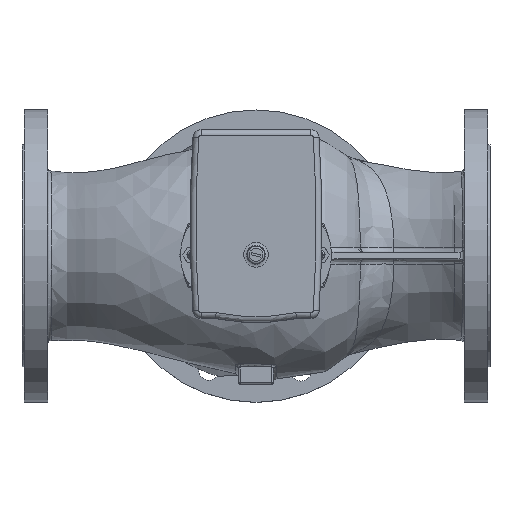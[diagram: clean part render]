
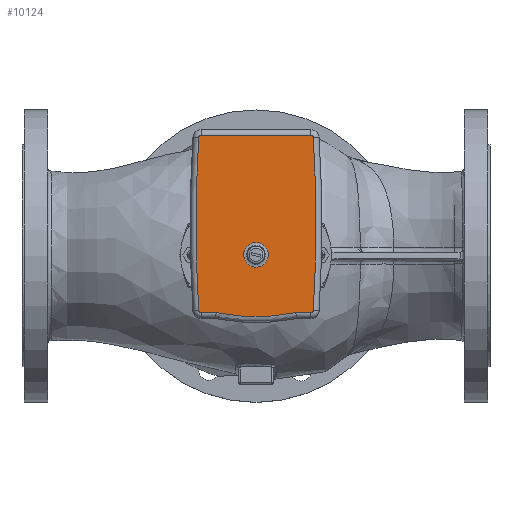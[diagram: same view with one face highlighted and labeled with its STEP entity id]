
A CAD part, top view. The second image highlights one B-rep face of the part: STEP entity #10124.
In plain terms, the highlighted planar face has unit normal (0, 0, 1).
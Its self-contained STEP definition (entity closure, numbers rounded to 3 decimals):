
#675=LINE('',#25035,#1266);
#676=LINE('',#25039,#1267);
#677=LINE('',#25047,#1268);
#1266=VECTOR('',#17036,1000.);
#1267=VECTOR('',#17039,1000.);
#1268=VECTOR('',#17046,1000.);
#1658=PLANE('',#14490);
#4191=ORIENTED_EDGE('',*,*,#5887,.T.);
#4192=ORIENTED_EDGE('',*,*,#5888,.T.);
#4193=ORIENTED_EDGE('',*,*,#5889,.T.);
#4194=ORIENTED_EDGE('',*,*,#5890,.T.);
#4195=ORIENTED_EDGE('',*,*,#5891,.T.);
#4196=ORIENTED_EDGE('',*,*,#5892,.T.);
#4197=ORIENTED_EDGE('',*,*,#5893,.T.);
#4198=ORIENTED_EDGE('',*,*,#5894,.T.);
#4199=ORIENTED_EDGE('',*,*,#5895,.T.);
#4200=ORIENTED_EDGE('',*,*,#5896,.T.);
#4201=ORIENTED_EDGE('',*,*,#5897,.T.);
#5887=EDGE_CURVE('',#6928,#6928,#7567,.T.);
#5888=EDGE_CURVE('',#6929,#6930,#7568,.F.);
#5889=EDGE_CURVE('',#6930,#6931,#675,.F.);
#5890=EDGE_CURVE('',#6931,#6932,#7569,.F.);
#5891=EDGE_CURVE('',#6932,#6933,#676,.F.);
#5892=EDGE_CURVE('',#6933,#6934,#7570,.F.);
#5893=EDGE_CURVE('',#6934,#6935,#7571,.F.);
#5894=EDGE_CURVE('',#6935,#6936,#7572,.F.);
#5895=EDGE_CURVE('',#6936,#6937,#677,.F.);
#5896=EDGE_CURVE('',#6937,#6938,#7573,.F.);
#5897=EDGE_CURVE('',#6938,#6929,#7574,.F.);
#6928=VERTEX_POINT('',#25031);
#6929=VERTEX_POINT('',#25033);
#6930=VERTEX_POINT('',#25034);
#6931=VERTEX_POINT('',#25036);
#6932=VERTEX_POINT('',#25038);
#6933=VERTEX_POINT('',#25040);
#6934=VERTEX_POINT('',#25042);
#6935=VERTEX_POINT('',#25044);
#6936=VERTEX_POINT('',#25046);
#6937=VERTEX_POINT('',#25048);
#6938=VERTEX_POINT('',#25050);
#7567=CIRCLE('',#14491,10.521);
#7568=CIRCLE('',#14492,1.964);
#7569=CIRCLE('',#14493,169.964);
#7570=CIRCLE('',#14494,1.964);
#7571=CIRCLE('',#14495,1096.964);
#7572=CIRCLE('',#14496,1.964);
#7573=CIRCLE('',#14497,1.964);
#7574=CIRCLE('',#14498,1096.964);
#8383=EDGE_LOOP('',(#4191));
#8384=EDGE_LOOP('',(#4192,#4193,#4194,#4195,#4196,#4197,#4198,#4199,#4200,
#4201));
#9289=FACE_BOUND('',#8383,.T.);
#9290=FACE_BOUND('',#8384,.T.);
#10124=ADVANCED_FACE('',(#9289,#9290),#1658,.F.);
#14490=AXIS2_PLACEMENT_3D('',#25029,#17030,#17031);
#14491=AXIS2_PLACEMENT_3D('',#25030,#17032,#17033);
#14492=AXIS2_PLACEMENT_3D('',#25032,#17034,#17035);
#14493=AXIS2_PLACEMENT_3D('',#25037,#17037,#17038);
#14494=AXIS2_PLACEMENT_3D('',#25041,#17040,#17041);
#14495=AXIS2_PLACEMENT_3D('',#25043,#17042,#17043);
#14496=AXIS2_PLACEMENT_3D('',#25045,#17044,#17045);
#14497=AXIS2_PLACEMENT_3D('',#25049,#17047,#17048);
#14498=AXIS2_PLACEMENT_3D('',#25051,#17049,#17050);
#17030=DIRECTION('',(0.,0.,-1.));
#17031=DIRECTION('',(-1.,0.,0.));
#17032=DIRECTION('',(0.,0.,-1.));
#17033=DIRECTION('',(-1.,0.,0.));
#17034=DIRECTION('',(0.,0.,-1.));
#17035=DIRECTION('',(-1.,0.,0.));
#17036=DIRECTION('',(0.,1.,0.));
#17037=DIRECTION('',(0.,0.,-1.));
#17038=DIRECTION('',(-1.,0.,0.));
#17039=DIRECTION('',(0.,1.,0.));
#17040=DIRECTION('',(0.,0.,-1.));
#17041=DIRECTION('',(-1.,0.,0.));
#17042=DIRECTION('',(0.,0.,-1.));
#17043=DIRECTION('',(-1.,0.,0.));
#17044=DIRECTION('',(0.,0.,-1.));
#17045=DIRECTION('',(-1.,0.,0.));
#17046=DIRECTION('',(0.,-1.,0.));
#17047=DIRECTION('',(0.,0.,-1.));
#17048=DIRECTION('',(-1.,0.,0.));
#17049=DIRECTION('',(0.,0.,-1.));
#17050=DIRECTION('',(-1.,0.,0.));
#25029=CARTESIAN_POINT('',(0.,0.,109.084));
#25030=CARTESIAN_POINT('',(0.,0.,109.084));
#25031=CARTESIAN_POINT('',(-10.521,0.,109.084));
#25032=CARTESIAN_POINT('',(-47.508,47.,109.084));
#25033=CARTESIAN_POINT('',(-47.64,48.96,109.084));
#25034=CARTESIAN_POINT('',(-49.472,47.,109.084));
#25035=CARTESIAN_POINT('',(-49.472,34.599,109.084));
#25036=CARTESIAN_POINT('',(-49.472,34.096,109.084));
#25037=CARTESIAN_POINT('',(117.037,0.,109.084));
#25038=CARTESIAN_POINT('',(-49.472,-34.096,109.084));
#25039=CARTESIAN_POINT('',(-49.472,-47.,109.084));
#25040=CARTESIAN_POINT('',(-49.472,-47.,109.084));
#25041=CARTESIAN_POINT('',(-47.508,-47.,109.084));
#25042=CARTESIAN_POINT('',(-47.64,-48.96,109.084));
#25043=CARTESIAN_POINT('',(26.246,1045.513,109.084));
#25044=CARTESIAN_POINT('',(100.132,-48.96,109.084));
#25045=CARTESIAN_POINT('',(100.,-47.,109.084));
#25046=CARTESIAN_POINT('',(101.964,-47.,109.084));
#25047=CARTESIAN_POINT('',(101.964,47.,109.084));
#25048=CARTESIAN_POINT('',(101.964,47.,109.084));
#25049=CARTESIAN_POINT('',(100.,47.,109.084));
#25050=CARTESIAN_POINT('',(100.132,48.96,109.084));
#25051=CARTESIAN_POINT('',(26.246,-1045.513,109.084));
